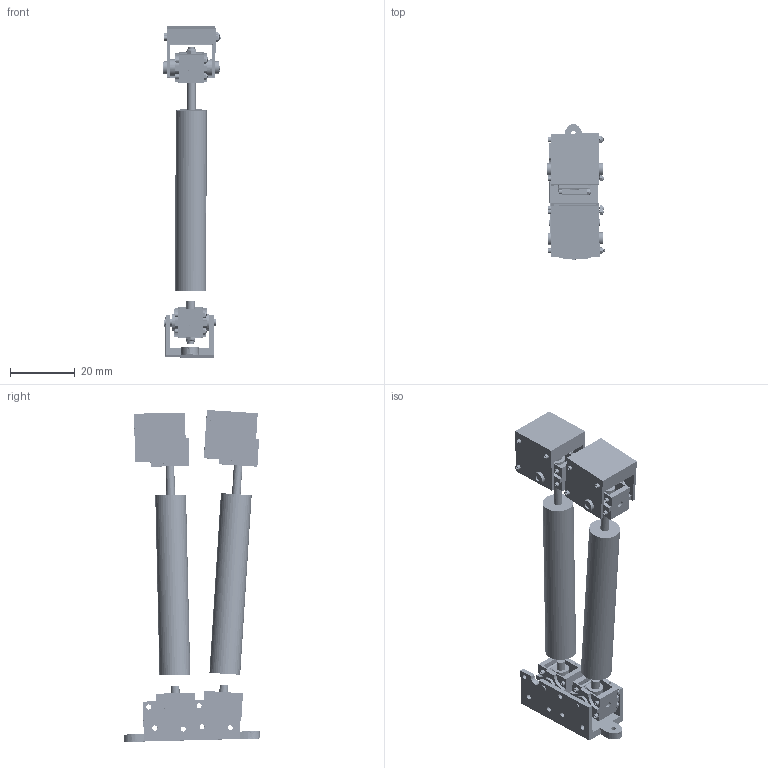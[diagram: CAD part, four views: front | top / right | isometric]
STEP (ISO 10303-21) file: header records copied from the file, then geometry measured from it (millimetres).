
FILE_DESCRIPTION(/* description */ (''),/* implementation_level */ '2;1');
FILE_NAME(/* name */ 'Smaller Cardans Hyd Cylinders Lower Frame from 06 project 95 from 05 Project Four Fingers etc.step',/* time_stamp */ '2026-07-05T19:18:34-04:00',/* author */ (''),/* organization */ (''),/* preprocessor_version */ 'ST-DEVELOPER v20.1',/* originating_system */ 'Autodesk Translation Framework v15.8.0.0',/* authorisation */ '');
FILE_SCHEMA (('AUTOMOTIVE_DESIGN { 1 0 10303 214 3 1 1 }'));
Products named in the file (156): 2026-07-05-19-18-32-359; 2026-07-05-19-18-32-311; #180128; #180129; #180130; #180131; #180132; 2026-07-05-19-18-32-320; #180134; #180135; 2026-07-05-19-18-32-325_1; #180137; #180138; 2026-07-05-19-18-32-318; #180140; #180141; 2026-07-05-19-18-32-325_3; 2026-07-05-19-18-32-320_1; 2026-07-05-19-18-32-323_1; #180145; #180146; #180147; #180148; #180149; #180150; #180151; 2026-07-05-19-18-32-324_1; 2026-07-05-19-18-32-323_3; 2026-07-05-19-18-32-321_2; #180155; #180156; #180157; 2026-07-05-19-18-32-323_4; #180159; #180160; #180161; 2026-07-05-19-18-32-325_4; #180163; 2026-07-05-19-18-32-321_3; #180165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
Assembly tree (155 placements, depth 8):
  2026-07-05-19-18-32-359
    2026-07-05-19-18-32-311
    #180128
      #180129
        #180130
          #180131
            #180132
              2026-07-05-19-18-32-320
          #180134
            #180135
              2026-07-05-19-18-32-325_1
          #180137
            #180138
              2026-07-05-19-18-32-318
          #180140
            #180141
              2026-07-05-19-18-32-325_3
          2026-07-05-19-18-32-320_1
          2026-07-05-19-18-32-323_1
          #180145
            #180146
          #180147
            #180148
        #180149
          #180150
          #180151
            2026-07-05-19-18-32-324_1
              2026-07-05-19-18-32-323_3
                2026-07-05-19-18-32-321_2
          #180155
            #180156
              #180157
                2026-07-05-19-18-32-323_4
          #180159
            #180160
              #180161
                2026-07-05-19-18-32-325_4
        #180163
          2026-07-05-19-18-32-321_3
          #180165
          #180166
      #180167
        #180168
          #180169
            #180170
              2026-07-05-19-18-32-331
          #180172
            #180173
              2026-07-05-19-18-32-334_1
          #180175
            #180176
              2026-07-05-19-18-32-330
          #180178
            #180179
              2026-07-05-19-18-32-334_3
          2026-07-05-19-18-32-331_3
          2026-07-05-19-18-32-333_2
          #180183
          #180184
        #180185
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Bounding box: 17.63 x 41.88 x 102.33 mm (x, y, z)
Volume: 11966.3 mm3; surface area: 22990.1 mm2
Topology: 137 solids, 137 shells, 3386 faces, 8160 edges, 5218 vertices
Faces by surface type: cylinder 1360, plane 969, bspline 523, cone 408, torus 126
Full cylindrical faces by diameter (mm): 0.689 x22, 0.709 x88, 0.915 x220, 0.93 x122, 1.042 x22, 1.395 x22, 1.6 x14, 1.637 x2, 1.648 x14, 1.72 x2, 1.907 x44, 1.926 x54, 1.972 x12, 1.99 x4, 1.991 x16, 2.66 x22, 2.722 x4, 3.721 x36, 4.979 x40, 6.932 x4, 9.5 x4
Entity records: 179332 total; most frequent: CARTESIAN_POINT 103674, ORIENTED_EDGE 16320, DIRECTION 13104, EDGE_CURVE 8160, AXIS2_PLACEMENT_3D 5282, VERTEX_POINT 5218, EDGE_LOOP 3884, FACE_OUTER_BOUND 3386
